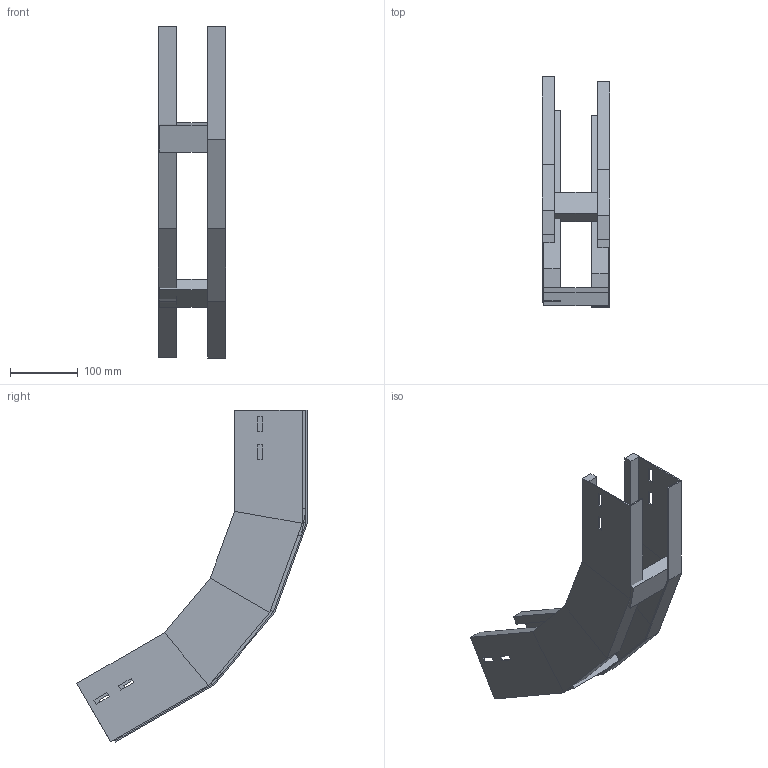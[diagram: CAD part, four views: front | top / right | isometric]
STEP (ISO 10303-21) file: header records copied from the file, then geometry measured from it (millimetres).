
FILE_DESCRIPTION (( 'STEP AP214' ), '1' );
FILE_NAME ('A2X40B3D100XX.step', '2025-04-02T09:38:40', ( '' ), ( '' ), 'SwSTEP 2.0', 'SolidWorks 2023', '' );
FILE_SCHEMA (( 'AUTOMOTIVE_DESIGN' ));
Length unit declared in the file: millimetre
Products named in the file (3): TRAVERSINO_100; A2X40B3D100XX; LONGH.SALITA_60°_H100_R300
Assembly tree (4 placements, depth 2):
  A2X40B3D100XX
    LONGH.SALITA_60°_H100_R300  x2
    TRAVERSINO_100  x2
Bounding box: 100 x 340.82 x 490.76 mm (x, y, z)
Volume: 637970 mm3; surface area: 350888.7 mm2
Topology: 4 solids, 4 shells, 112 faces, 264 edges, 160 vertices
Faces by surface type: plane 112
Entity records: 1664 total; most frequent: CARTESIAN_POINT 275, ORIENTED_EDGE 264, DIRECTION 258, EDGE_CURVE 132, LINE 132, VECTOR 132, VERTEX_POINT 80, EDGE_LOOP 64
